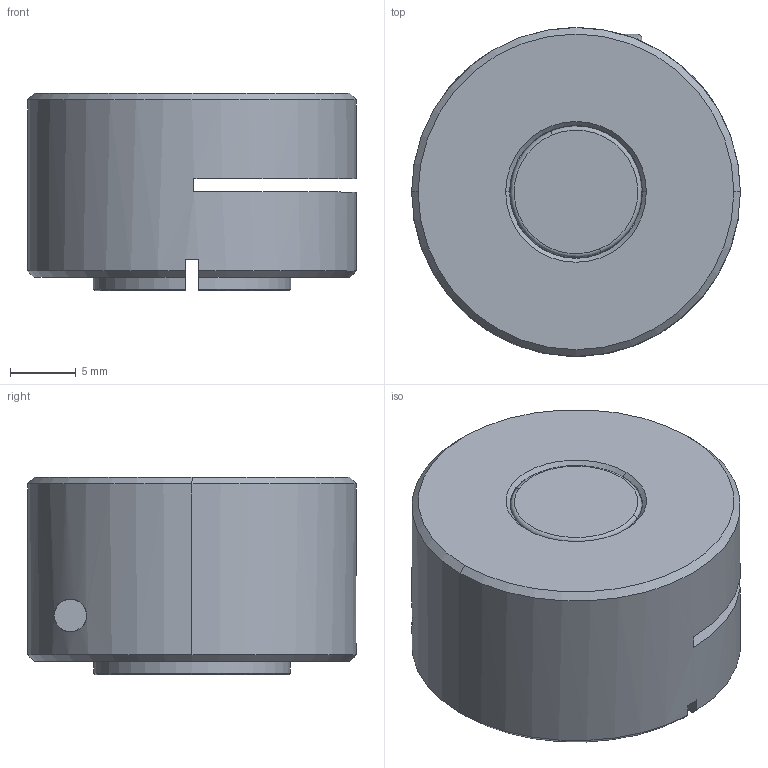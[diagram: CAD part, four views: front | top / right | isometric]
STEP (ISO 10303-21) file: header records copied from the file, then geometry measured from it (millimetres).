
FILE_DESCRIPTION (( 'STEP AP203' ), '1' );
FILE_NAME ('90.5003.STEP', '2024-12-16T08:24:14', ( '' ), ( '' ), 'SwSTEP 2.0', 'SolidWorks 2023', '' );
FILE_SCHEMA (( 'CONFIG_CONTROL_DESIGN' ));
Length unit declared in the file: millimetre
Products named in the file (1): 90.5003
Bounding box: 25 x 25 x 15 mm (x, y, z)
Volume: 5619.6 mm3; surface area: 3640.6 mm2
Topology: 3 solids, 3 shells, 83 faces, 195 edges, 120 vertices
Faces by surface type: plane 32, cylinder 24, cone 17, torus 10
Entity records: 2571 total; most frequent: CARTESIAN_POINT 551, DIRECTION 436, ORIENTED_EDGE 386, EDGE_CURVE 193, AXIS2_PLACEMENT_3D 177, VERTEX_POINT 120, CIRCLE 93, EDGE_LOOP 91
